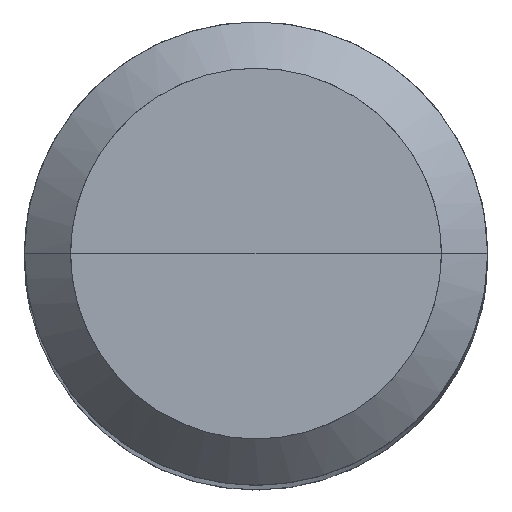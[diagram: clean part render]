
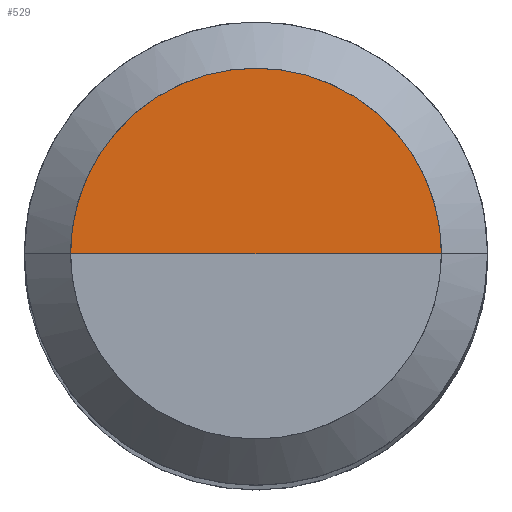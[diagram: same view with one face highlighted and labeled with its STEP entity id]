
A CAD part, top view. The second image highlights one B-rep face of the part: STEP entity #529.
In plain terms, the highlighted free-form (B-spline) face has degree [1, 2] with [2, 5] control points.
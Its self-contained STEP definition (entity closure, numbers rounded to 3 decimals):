
#333=CARTESIAN_POINT('',(4.0,0.0,52.0));
#334=CARTESIAN_POINT('',(4.0,4.0,52.0));
#335=CARTESIAN_POINT('',(0.0,4.0,52.0));
#336=CARTESIAN_POINT('',(-4.0,4.0,52.0));
#337=CARTESIAN_POINT('',(-4.0,0.0,52.0));
#338=CARTESIAN_POINT('',(0.0,0.0,52.0));
#514=(
BOUNDED_SURFACE()
B_SPLINE_SURFACE(1,2,(
(#333,#334,#335,#336,#337),
(#338,#338,#338,#338,#338)
), .UNSPECIFIED.,.F.,.F.,.F.)
B_SPLINE_SURFACE_WITH_KNOTS((2,2),(3,2,3),(
0.0,1.0),(
0.0,0.5,1.0), .UNSPECIFIED.)
GEOMETRIC_REPRESENTATION_ITEM()
RATIONAL_B_SPLINE_SURFACE(((1.0,0.707,1.0,0.707,1.0),
(1.0,0.707,1.0,0.707,1.0)
))
REPRESENTATION_ITEM('')
SURFACE()
);
#515=(
BOUNDED_CURVE()
B_SPLINE_CURVE(2,(#337,#336,#335,#334,#333),.UNSPECIFIED.,.F.,.F.)
B_SPLINE_CURVE_WITH_KNOTS((3,2,3),
(0.0,0.5,1.0),.UNSPECIFIED.)
CURVE()
GEOMETRIC_REPRESENTATION_ITEM()
RATIONAL_B_SPLINE_CURVE((1.0,0.707,1.0,0.707,1.0))
REPRESENTATION_ITEM('')
);
#516=(
BOUNDED_CURVE()
B_SPLINE_CURVE(1,(#333,#338),.UNSPECIFIED.,.F.,.F.)
B_SPLINE_CURVE_WITH_KNOTS((2,2),
(0.0,1.0),.UNSPECIFIED.)
CURVE()
GEOMETRIC_REPRESENTATION_ITEM()
RATIONAL_B_SPLINE_CURVE((1.0,1.0))
REPRESENTATION_ITEM('')
);
#517=(
BOUNDED_CURVE()
B_SPLINE_CURVE(1,(#338,#337),.UNSPECIFIED.,.F.,.F.)
B_SPLINE_CURVE_WITH_KNOTS((2,2),
(0.0,1.0),.UNSPECIFIED.)
CURVE()
GEOMETRIC_REPRESENTATION_ITEM()
RATIONAL_B_SPLINE_CURVE((1.0,1.0))
REPRESENTATION_ITEM('')
);
#518=VERTEX_POINT('',#333);
#519=VERTEX_POINT('',#337);
#520=VERTEX_POINT('',#338);
#521=EDGE_CURVE('',#519,#518,#515,.T.);
#522=EDGE_CURVE('',#518,#520,#516,.T.);
#523=EDGE_CURVE('',#520,#519,#517,.T.);
#524=ORIENTED_EDGE('',*,*,#521,.T.);
#525=ORIENTED_EDGE('',*,*,#522,.T.);
#526=ORIENTED_EDGE('',*,*,#523,.T.);
#527=EDGE_LOOP('',(#524,#525,#526));
#528=FACE_OUTER_BOUND('',#527,.T.);
#529=ADVANCED_FACE('',(#528),#514,.T.);
